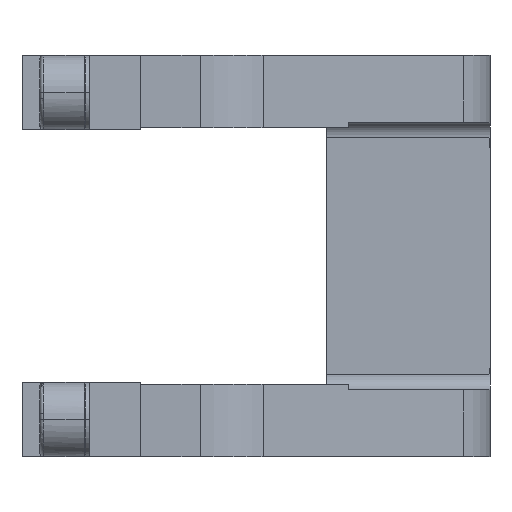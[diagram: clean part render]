
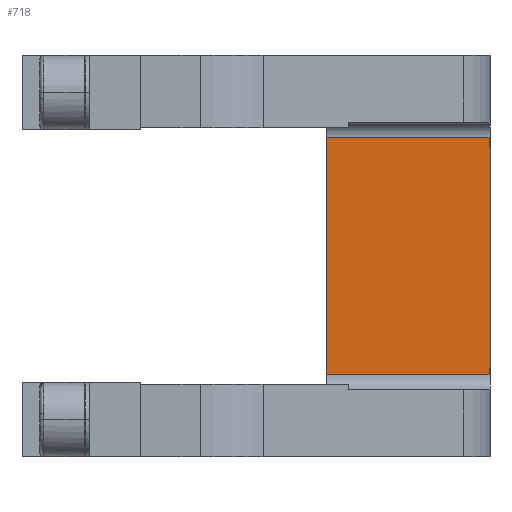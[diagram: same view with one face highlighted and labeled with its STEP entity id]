
A CAD part, front view. The second image highlights one B-rep face of the part: STEP entity #718.
In plain terms, the highlighted planar face has unit normal (0, -1, 0).
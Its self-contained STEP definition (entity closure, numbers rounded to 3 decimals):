
#91=CARTESIAN_POINT('Vertex',(25.,70.,-16.)) ;
#94=CARTESIAN_POINT('Line Origine',(25.,70.,0.)) ;
#98=CARTESIAN_POINT('Vertex',(25.,70.,16.)) ;
#676=CARTESIAN_POINT('Line Origine',(23.5,70.,16.)) ;
#680=CARTESIAN_POINT('Vertex',(47.,70.,16.)) ;
#695=CARTESIAN_POINT('Axis2P3D Location',(0.,70.,16.)) ;
#700=CARTESIAN_POINT('Line Origine',(36.,70.,-16.)) ;
#704=CARTESIAN_POINT('Vertex',(47.,70.,-16.)) ;
#707=CARTESIAN_POINT('Line Origine',(47.,70.,0.)) ;
#95=DIRECTION('Vector Direction',(0.,0.,-1.)) ;
#677=DIRECTION('Vector Direction',(-1.,0.,0.)) ;
#696=DIRECTION('Axis2P3D Direction',(0.,-1.,0.)) ;
#697=DIRECTION('Axis2P3D XDirection',(0.,0.,-1.)) ;
#701=DIRECTION('Vector Direction',(1.,0.,0.)) ;
#708=DIRECTION('Vector Direction',(0.,0.,-1.)) ;
#698=AXIS2_PLACEMENT_3D('Plane Axis2P3D',#695,#696,#697) ;
#713=ORIENTED_EDGE('',*,*,#706,.T.) ;
#714=ORIENTED_EDGE('',*,*,#711,.F.) ;
#715=ORIENTED_EDGE('',*,*,#682,.F.) ;
#716=ORIENTED_EDGE('',*,*,#100,.T.) ;
#96=VECTOR('Line Direction',#95,1.) ;
#678=VECTOR('Line Direction',#677,1.) ;
#702=VECTOR('Line Direction',#701,1.) ;
#709=VECTOR('Line Direction',#708,1.) ;
#718=ADVANCED_FACE('Brep With Voids',(#717),#699,.T.) ;
#100=EDGE_CURVE('',#99,#92,#97,.T.) ;
#682=EDGE_CURVE('',#99,#681,#679,.F.) ;
#706=EDGE_CURVE('',#92,#705,#703,.T.) ;
#711=EDGE_CURVE('',#681,#705,#710,.T.) ;
#712=EDGE_LOOP('',(#713,#714,#715,#716)) ;
#717=FACE_OUTER_BOUND('',#712,.T.) ;
#97=LINE('Line',#94,#96) ;
#679=LINE('Line',#676,#678) ;
#703=LINE('Line',#700,#702) ;
#710=LINE('Line',#707,#709) ;
#699=PLANE('Plane',#698) ;
#92=VERTEX_POINT('',#91) ;
#99=VERTEX_POINT('',#98) ;
#681=VERTEX_POINT('',#680) ;
#705=VERTEX_POINT('',#704) ;
